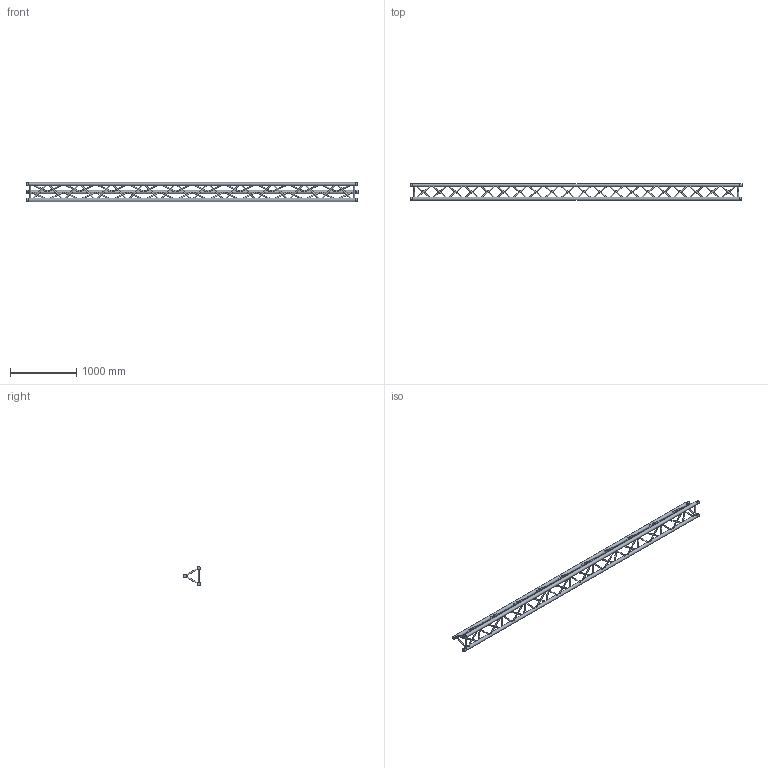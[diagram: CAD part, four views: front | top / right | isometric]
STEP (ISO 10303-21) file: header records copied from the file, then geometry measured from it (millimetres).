
FILE_DESCRIPTION(/* description */ (''),/* implementation_level */ '2;1');
FILE_NAME(/* name */ 'M:\Symbolen\STP\30-er truss\111050034.stp',/* time_stamp */ '2014-12-03T14:42:23+01:00',/* author */ ('Stephan'),/* organization */ (''),/* preprocessor_version */ 'ST-DEVELOPER v15.6',/* originating_system */ 'Autodesk Inventor 2015',/* authorisation */ '');
FILE_SCHEMA (('AUTOMOTIVE_DESIGN { 1 0 10303 214 3 1 1 }'));
Length unit declared in the file: millimetre
Products named in the file (1): 160023784
Bounding box: 5000 x 255.28 x 287.3 mm (x, y, z)
Volume: 30482718.6 mm3; surface area: 3204943.6 mm2
Topology: 63 solids, 69 shells, 243 faces, 357 edges, 252 vertices
Faces by surface type: plane 156, cylinder 81, cone 6
Full cylindrical faces by diameter (mm): 10 x6, 16 x66, 48.3 x9
Entity records: 5520 total; most frequent: CARTESIAN_POINT 1060, DIRECTION 836, ORIENTED_EDGE 432, AXIS2_PLACEMENT_3D 412, EDGE_LOOP 360, STYLED_ITEM 304, FACE_OUTER_BOUND 243, ADVANCED_FACE 243
